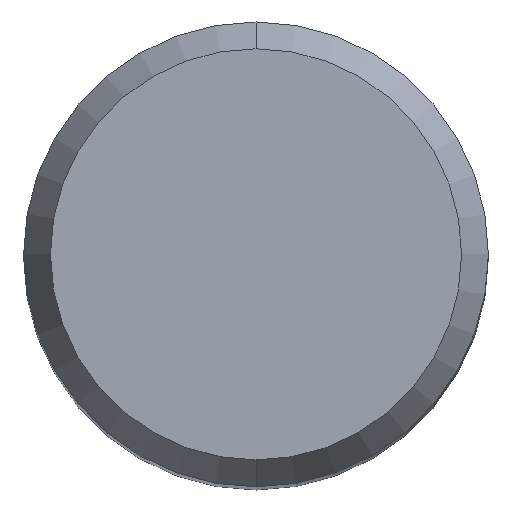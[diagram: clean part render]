
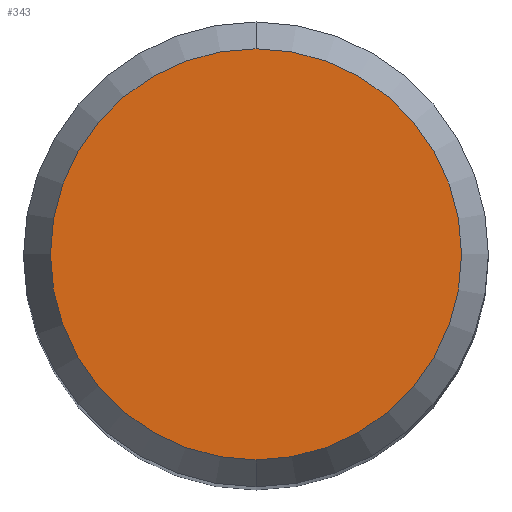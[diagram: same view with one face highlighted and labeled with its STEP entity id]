
A CAD part, top view. The second image highlights one B-rep face of the part: STEP entity #343.
In plain terms, the highlighted planar face has unit normal (0, 0, 1).
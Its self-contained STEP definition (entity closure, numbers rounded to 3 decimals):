
#265=EDGE_CURVE('',#439,#361,#564,.T.);
#343=ADVANCED_FACE('',(#649),#650,.T.);
#361=VERTEX_POINT('',#670);
#387=EDGE_CURVE('',#361,#439,#700,.T.);
#439=VERTEX_POINT('',#758);
#564=CIRCLE('',#1012,4.423);
#649=FACE_OUTER_BOUND('',#1214,.T.);
#650=PLANE('',#1215);
#670=CARTESIAN_POINT('',(0.,-4.423,0.0));
#700=CIRCLE('',#1285,4.423);
#758=CARTESIAN_POINT('',(0.0,4.423,0.0));
#1012=AXIS2_PLACEMENT_3D('',#1514,#1515,#1516);
#1214=EDGE_LOOP('',(#1614,#1615));
#1215=AXIS2_PLACEMENT_3D('',#1616,#1617,#1618);
#1285=AXIS2_PLACEMENT_3D('',#1674,#1675,#1676);
#1514=CARTESIAN_POINT('',(0.0,0.0,0.0));
#1515=DIRECTION('',(0.0,0.0,-1.0));
#1516=DIRECTION('',(0.0,1.0,0.0));
#1614=ORIENTED_EDGE('',*,*,#265,.F.);
#1615=ORIENTED_EDGE('',*,*,#387,.F.);
#1616=CARTESIAN_POINT('',(0.0,2.211,0.0));
#1617=DIRECTION('',(-0.0,0.0,1.0));
#1618=DIRECTION('',(0.0,-1.0,0.0));
#1674=CARTESIAN_POINT('',(0.0,0.0,0.0));
#1675=DIRECTION('',(0.0,0.0,-1.0));
#1676=DIRECTION('',(0.0,1.0,0.0));
